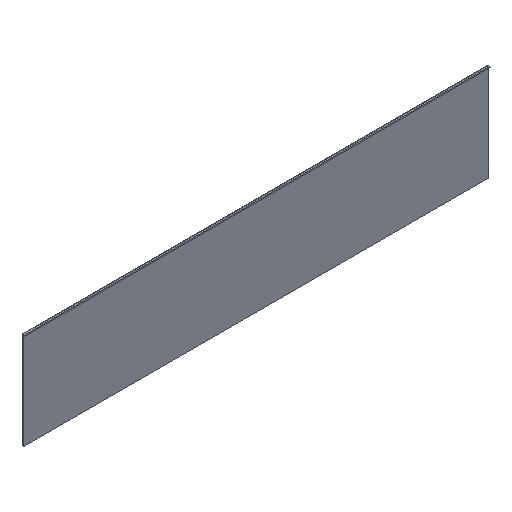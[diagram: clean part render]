
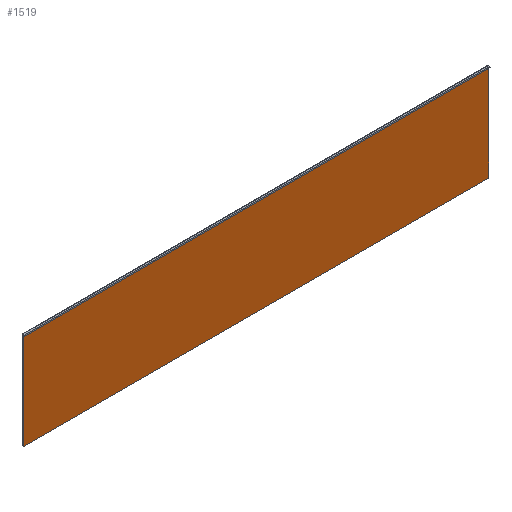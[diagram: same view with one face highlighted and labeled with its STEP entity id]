
A CAD part, isometric view. The second image highlights one B-rep face of the part: STEP entity #1519.
In plain terms, the highlighted planar face has unit normal (0, -1, 0).
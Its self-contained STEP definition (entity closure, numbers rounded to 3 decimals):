
#13 = DIRECTION ( 'NONE',  ( 1., 0., 0. ) ) ;
#30 = FACE_OUTER_BOUND ( 'NONE', #934, .T. ) ;
#238 = ORIENTED_EDGE ( 'NONE', *, *, #1714, .T. ) ;
#318 = AXIS2_PLACEMENT_3D ( 'NONE', #1119, #1566, #819 ) ;
#373 = ORIENTED_EDGE ( 'NONE', *, *, #417, .T. ) ;
#403 = CARTESIAN_POINT ( 'NONE',  ( 679.99, 17.153, 72.475 ) ) ;
#417 = EDGE_CURVE ( 'NONE', #809, #907, #1103, .T. ) ;
#503 = PLANE ( 'NONE',  #318 ) ;
#527 = VECTOR ( 'NONE', #13, 1000. ) ;
#601 = CARTESIAN_POINT ( 'NONE',  ( -20.01, 17.153, 23.475 ) ) ;
#721 = LINE ( 'NONE', #895, #1491 ) ;
#808 = CARTESIAN_POINT ( 'NONE',  ( 716.99, 17.153, 51.415 ) ) ;
#809 = VERTEX_POINT ( 'NONE', #1220 ) ;
#819 = DIRECTION ( 'NONE',  ( 1., 0., 0. ) ) ;
#830 = VECTOR ( 'NONE', #1023, 1000. ) ;
#865 = LINE ( 'NONE', #403, #830 ) ;
#869 = ORIENTED_EDGE ( 'NONE', *, *, #1753, .T. ) ;
#895 = CARTESIAN_POINT ( 'NONE',  ( -20.01, 17.153, 195.475 ) ) ;
#907 = VERTEX_POINT ( 'NONE', #1708 ) ;
#934 = EDGE_LOOP ( 'NONE', ( #238, #373, #1804, #869 ) ) ;
#964 = VECTOR ( 'NONE', #1226, 1000. ) ;
#1000 = EDGE_CURVE ( 'NONE', #907, #1315, #865, .T. ) ;
#1023 = DIRECTION ( 'NONE',  ( 0., 0., 1. ) ) ;
#1073 = DIRECTION ( 'NONE',  ( -1., 0., 0. ) ) ;
#1103 = LINE ( 'NONE', #808, #527 ) ;
#1119 = CARTESIAN_POINT ( 'NONE',  ( -20.01, 17.153, 23.475 ) ) ;
#1220 = CARTESIAN_POINT ( 'NONE',  ( -20.01, 17.153, 51.415 ) ) ;
#1226 = DIRECTION ( 'NONE',  ( 0., 0., -1. ) ) ;
#1315 = VERTEX_POINT ( 'NONE', #1376 ) ;
#1376 = CARTESIAN_POINT ( 'NONE',  ( 679.99, 17.153, 195.475 ) ) ;
#1491 = VECTOR ( 'NONE', #1073, 1000. ) ;
#1519 = ADVANCED_FACE ( 'NONE', ( #30 ), #503, .T. ) ;
#1566 = DIRECTION ( 'NONE',  ( 0., -1., 0. ) ) ;
#1598 = CARTESIAN_POINT ( 'NONE',  ( -20.01, 17.153, 195.475 ) ) ;
#1666 = VERTEX_POINT ( 'NONE', #1598 ) ;
#1708 = CARTESIAN_POINT ( 'NONE',  ( 679.99, 17.153, 51.415 ) ) ;
#1714 = EDGE_CURVE ( 'NONE', #1666, #809, #1795, .T. ) ;
#1753 = EDGE_CURVE ( 'NONE', #1315, #1666, #721, .T. ) ;
#1795 = LINE ( 'NONE', #601, #964 ) ;
#1804 = ORIENTED_EDGE ( 'NONE', *, *, #1000, .T. ) ;
